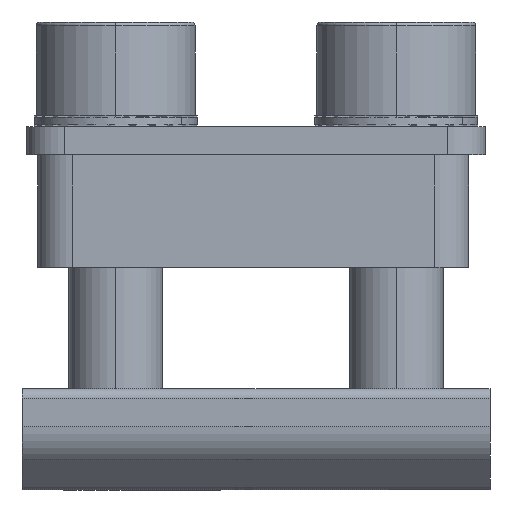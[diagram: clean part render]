
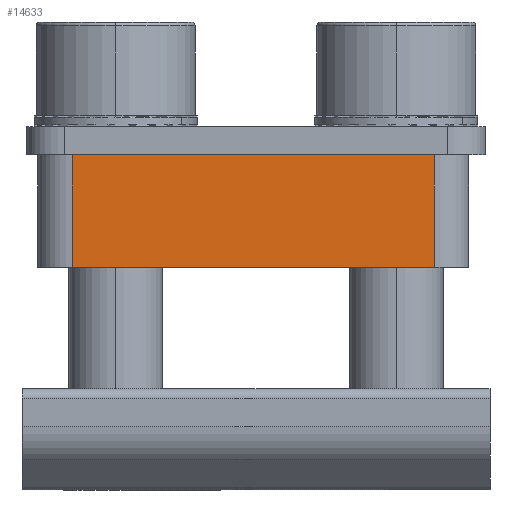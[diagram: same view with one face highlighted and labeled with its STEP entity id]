
A CAD part, front view. The second image highlights one B-rep face of the part: STEP entity #14633.
In plain terms, the highlighted planar face has unit normal (0, -1, 0).
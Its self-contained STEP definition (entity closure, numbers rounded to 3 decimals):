
#1875 = EDGE_CURVE ( 'NONE', #11764, #10964, #4712, .T. ) ;
#3704 = EDGE_CURVE ( 'NONE', #11764, #14884, #11361, .T. ) ;
#3903 = ORIENTED_EDGE ( 'NONE', *, *, #21375, .F. ) ;
#4712 = LINE ( 'NONE', #14391, #14312 ) ;
#6234 = VECTOR ( 'NONE', #17164, 1000. ) ;
#6322 = CARTESIAN_POINT ( 'NONE',  ( -116.112, -28.473, 45.348 ) ) ;
#6674 = ORIENTED_EDGE ( 'NONE', *, *, #1875, .T. ) ;
#8537 = CARTESIAN_POINT ( 'NONE',  ( -96.77, -28.473, 39.348 ) ) ;
#8588 = LINE ( 'NONE', #8537, #22707 ) ;
#9140 = CARTESIAN_POINT ( 'NONE',  ( -96.77, -28.473, 39.348 ) ) ;
#9757 = CARTESIAN_POINT ( 'NONE',  ( -96.77, -28.473, 45.348 ) ) ;
#10484 = DIRECTION ( 'NONE',  ( -1., 0., 0. ) ) ;
#10846 = ORIENTED_EDGE ( 'NONE', *, *, #18334, .T. ) ;
#10964 = VERTEX_POINT ( 'NONE', #12312 ) ;
#11361 = LINE ( 'NONE', #19056, #6234 ) ;
#11675 = DIRECTION ( 'NONE',  ( 0., 0., -1. ) ) ;
#11764 = VERTEX_POINT ( 'NONE', #18802 ) ;
#11784 = LINE ( 'NONE', #6322, #21995 ) ;
#12312 = CARTESIAN_POINT ( 'NONE',  ( -116.112, -28.473, 45.348 ) ) ;
#13110 = VERTEX_POINT ( 'NONE', #18686 ) ;
#13524 = DIRECTION ( 'NONE',  ( -1., 0., 0. ) ) ;
#14312 = VECTOR ( 'NONE', #13524, 1000. ) ;
#14391 = CARTESIAN_POINT ( 'NONE',  ( -96.77, -28.473, 45.348 ) ) ;
#14633 = ADVANCED_FACE ( 'NONE', ( #19647 ), #23078, .T. ) ;
#14884 = VERTEX_POINT ( 'NONE', #9140 ) ;
#17164 = DIRECTION ( 'NONE',  ( 0., 0., -1. ) ) ;
#17345 = AXIS2_PLACEMENT_3D ( 'NONE', #9757, #23152, #11675 ) ;
#18334 = EDGE_CURVE ( 'NONE', #10964, #13110, #11784, .T. ) ;
#18494 = EDGE_LOOP ( 'NONE', ( #3903, #23973, #6674, #10846 ) ) ;
#18686 = CARTESIAN_POINT ( 'NONE',  ( -116.112, -28.473, 39.348 ) ) ;
#18802 = CARTESIAN_POINT ( 'NONE',  ( -96.77, -28.473, 45.348 ) ) ;
#19056 = CARTESIAN_POINT ( 'NONE',  ( -96.77, -28.473, 45.348 ) ) ;
#19647 = FACE_OUTER_BOUND ( 'NONE', #18494, .T. ) ;
#19785 = DIRECTION ( 'NONE',  ( 0., 0., -1. ) ) ;
#21375 = EDGE_CURVE ( 'NONE', #14884, #13110, #8588, .T. ) ;
#21995 = VECTOR ( 'NONE', #19785, 1000. ) ;
#22707 = VECTOR ( 'NONE', #10484, 1000. ) ;
#23078 = PLANE ( 'NONE',  #17345 ) ;
#23152 = DIRECTION ( 'NONE',  ( 0., -1., 0. ) ) ;
#23973 = ORIENTED_EDGE ( 'NONE', *, *, #3704, .F. ) ;
